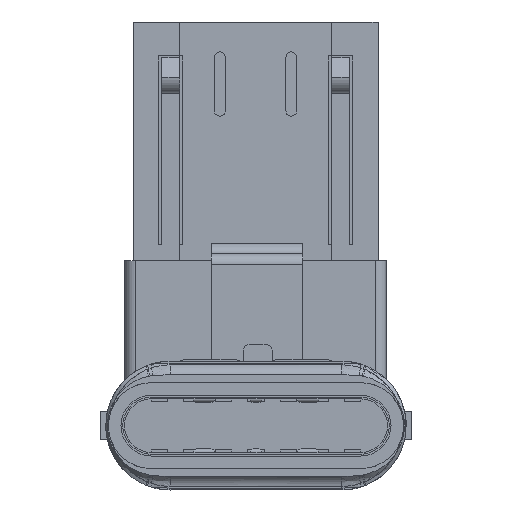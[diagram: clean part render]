
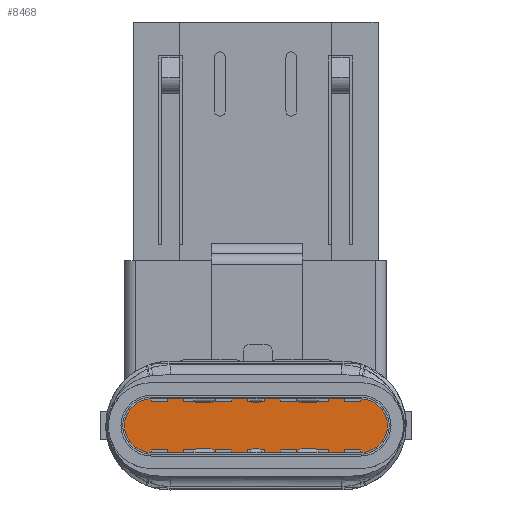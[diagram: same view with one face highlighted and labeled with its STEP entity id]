
A CAD part, front view. The second image highlights one B-rep face of the part: STEP entity #8468.
In plain terms, the highlighted planar face has unit normal (0, -1, 0) as drawn and (0, 0, 1) by its records, which use the part's own axes.
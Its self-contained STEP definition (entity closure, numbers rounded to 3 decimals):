
#8075 = VERTEX_POINT('',#8076);
#8076 = CARTESIAN_POINT('',(-0.657,0.784,3.5
    ));
#8082 = EDGE_CURVE('',#8075,#8083,#8085,.T.);
#8083 = VERTEX_POINT('',#8084);
#8084 = CARTESIAN_POINT('',(-0.624,0.77,
    3.5));
#8085 = LINE('',#8086,#8087);
#8086 = CARTESIAN_POINT('',(0.182,0.424,3.5
    ));
#8087 = VECTOR('',#8088,1.);
#8088 = DIRECTION('',(0.919,-0.394,0.));
#8114 = VERTEX_POINT('',#8115);
#8115 = CARTESIAN_POINT('',(-1.31,0.915,3.5));
#8121 = EDGE_CURVE('',#8114,#8075,#8122,.T.);
#8122 = CIRCLE('',#8123,1.7);
#8123 = AXIS2_PLACEMENT_3D('',#8124,#8125,#8126);
#8124 = CARTESIAN_POINT('',(-1.31,-0.785,3.5));
#8125 = DIRECTION('',(0.,0.,-1.));
#8126 = DIRECTION('',(-1.,0.,0.));
#8146 = VERTEX_POINT('',#8147);
#8147 = CARTESIAN_POINT('',(-6.11,0.915,
    3.5));
#8153 = EDGE_CURVE('',#8146,#8114,#8154,.T.);
#8154 = LINE('',#8155,#8156);
#8155 = CARTESIAN_POINT('',(0.,0.915,
    3.5));
#8156 = VECTOR('',#8157,1.);
#8157 = DIRECTION('',(1.,0.,0.));
#8178 = VERTEX_POINT('',#8179);
#8179 = CARTESIAN_POINT('',(-6.764,0.784,
    3.5));
#8185 = EDGE_CURVE('',#8178,#8146,#8186,.T.);
#8186 = CIRCLE('',#8187,1.7);
#8187 = AXIS2_PLACEMENT_3D('',#8188,#8189,#8190);
#8188 = CARTESIAN_POINT('',(-6.11,-0.785,3.5));
#8189 = DIRECTION('',(0.,0.,-1.));
#8190 = DIRECTION('',(-1.,0.,0.));
#8210 = VERTEX_POINT('',#8211);
#8211 = CARTESIAN_POINT('',(-6.796,0.771,
    3.5));
#8217 = EDGE_CURVE('',#8210,#8178,#8218,.T.);
#8218 = LINE('',#8219,#8220);
#8219 = CARTESIAN_POINT('',(-1.336,3.113,
    3.5));
#8220 = VECTOR('',#8221,1.);
#8221 = DIRECTION('',(0.919,0.394,0.));
#8245 = VERTEX_POINT('',#8246);
#8246 = CARTESIAN_POINT('',(-6.796,-2.34,
    3.5));
#8252 = EDGE_CURVE('',#8245,#8210,#8253,.T.);
#8253 = B_SPLINE_CURVE_WITH_KNOTS('',3,(#8254,#8255,#8256,#8257,#8258,
    #8259,#8260),.UNSPECIFIED.,.F.,.F.,(4,1,1,1,4),(0.,
    0.25,0.5,0.75,1.),
  .QUASI_UNIFORM_KNOTS.);
#8254 = CARTESIAN_POINT('',(-6.796,-2.34,
    3.5));
#8255 = CARTESIAN_POINT('',(-7.09,-2.203,
    3.5));
#8256 = CARTESIAN_POINT('',(-7.623,-1.764,
    3.5));
#8257 = CARTESIAN_POINT('',(-7.904,-0.785,
    3.5));
#8258 = CARTESIAN_POINT('',(-7.623,0.194,
    3.5));
#8259 = CARTESIAN_POINT('',(-7.089,0.632,
    3.5));
#8260 = CARTESIAN_POINT('',(-6.796,0.771,
    3.5));
#8286 = VERTEX_POINT('',#8287);
#8287 = CARTESIAN_POINT('',(-6.764,-2.354,
    3.5));
#8293 = EDGE_CURVE('',#8286,#8245,#8294,.T.);
#8294 = LINE('',#8295,#8296);
#8295 = CARTESIAN_POINT('',(-1.904,-4.439,
    3.5));
#8296 = VECTOR('',#8297,1.);
#8297 = DIRECTION('',(-0.919,0.394,0.));
#8318 = VERTEX_POINT('',#8319);
#8319 = CARTESIAN_POINT('',(-6.11,-2.485,3.5));
#8325 = EDGE_CURVE('',#8318,#8286,#8326,.T.);
#8326 = CIRCLE('',#8327,1.7);
#8327 = AXIS2_PLACEMENT_3D('',#8328,#8329,#8330);
#8328 = CARTESIAN_POINT('',(-6.11,-0.785,3.5));
#8329 = DIRECTION('',(0.,0.,-1.));
#8330 = DIRECTION('',(-1.,0.,0.));
#8350 = VERTEX_POINT('',#8351);
#8351 = CARTESIAN_POINT('',(-1.31,-2.485,
    3.5));
#8357 = EDGE_CURVE('',#8350,#8318,#8358,.T.);
#8358 = LINE('',#8359,#8360);
#8359 = CARTESIAN_POINT('',(0.,-2.485,
    3.5));
#8360 = VECTOR('',#8361,1.);
#8361 = DIRECTION('',(-1.,0.,0.));
#8382 = VERTEX_POINT('',#8383);
#8383 = CARTESIAN_POINT('',(-0.657,-2.354,
    3.5));
#8389 = EDGE_CURVE('',#8382,#8350,#8390,.T.);
#8390 = CIRCLE('',#8391,1.7);
#8391 = AXIS2_PLACEMENT_3D('',#8392,#8393,#8394);
#8392 = CARTESIAN_POINT('',(-1.31,-0.785,3.5));
#8393 = DIRECTION('',(0.,0.,-1.));
#8394 = DIRECTION('',(-1.,0.,0.));
#8414 = VERTEX_POINT('',#8415);
#8415 = CARTESIAN_POINT('',(-0.625,-2.341,3.5
    ));
#8421 = EDGE_CURVE('',#8414,#8382,#8422,.T.);
#8422 = LINE('',#8423,#8424);
#8423 = CARTESIAN_POINT('',(0.751,-1.75,
    3.5));
#8424 = VECTOR('',#8425,1.);
#8425 = DIRECTION('',(-0.919,-0.394,0.));
#8447 = EDGE_CURVE('',#8083,#8414,#8448,.T.);
#8448 = B_SPLINE_CURVE_WITH_KNOTS('',3,(#8449,#8450,#8451,#8452,#8453,
    #8454,#8455),.UNSPECIFIED.,.F.,.F.,(4,1,1,1,4),(0.,
    0.25,0.5,0.75,1.),
  .QUASI_UNIFORM_KNOTS.);
#8449 = CARTESIAN_POINT('',(-0.624,0.77,
    3.5));
#8450 = CARTESIAN_POINT('',(-0.331,0.633,
    3.5));
#8451 = CARTESIAN_POINT('',(0.202,0.194,3.5
    ));
#8452 = CARTESIAN_POINT('',(0.483,-0.785,
    3.5));
#8453 = CARTESIAN_POINT('',(0.203,-1.764,
    3.5));
#8454 = CARTESIAN_POINT('',(-0.332,-2.202,
    3.5));
#8455 = CARTESIAN_POINT('',(-0.625,-2.341,3.5
    ));
#8468 = ADVANCED_FACE('',(#8469),#8483,.F.);
#8469 = FACE_BOUND('',#8470,.T.);
#8470 = EDGE_LOOP('',(#8471,#8472,#8473,#8474,#8475,#8476,#8477,#8478,
    #8479,#8480,#8481,#8482));
#8471 = ORIENTED_EDGE('',*,*,#8082,.F.);
#8472 = ORIENTED_EDGE('',*,*,#8121,.F.);
#8473 = ORIENTED_EDGE('',*,*,#8153,.F.);
#8474 = ORIENTED_EDGE('',*,*,#8185,.F.);
#8475 = ORIENTED_EDGE('',*,*,#8217,.F.);
#8476 = ORIENTED_EDGE('',*,*,#8252,.F.);
#8477 = ORIENTED_EDGE('',*,*,#8293,.F.);
#8478 = ORIENTED_EDGE('',*,*,#8325,.F.);
#8479 = ORIENTED_EDGE('',*,*,#8357,.F.);
#8480 = ORIENTED_EDGE('',*,*,#8389,.F.);
#8481 = ORIENTED_EDGE('',*,*,#8421,.F.);
#8482 = ORIENTED_EDGE('',*,*,#8447,.F.);
#8483 = PLANE('',#8484);
#8484 = AXIS2_PLACEMENT_3D('',#8485,#8486,#8487);
#8485 = CARTESIAN_POINT('',(0.,0.,3.5));
#8486 = DIRECTION('',(0.,0.,-1.));
#8487 = DIRECTION('',(-1.,0.,0.));
